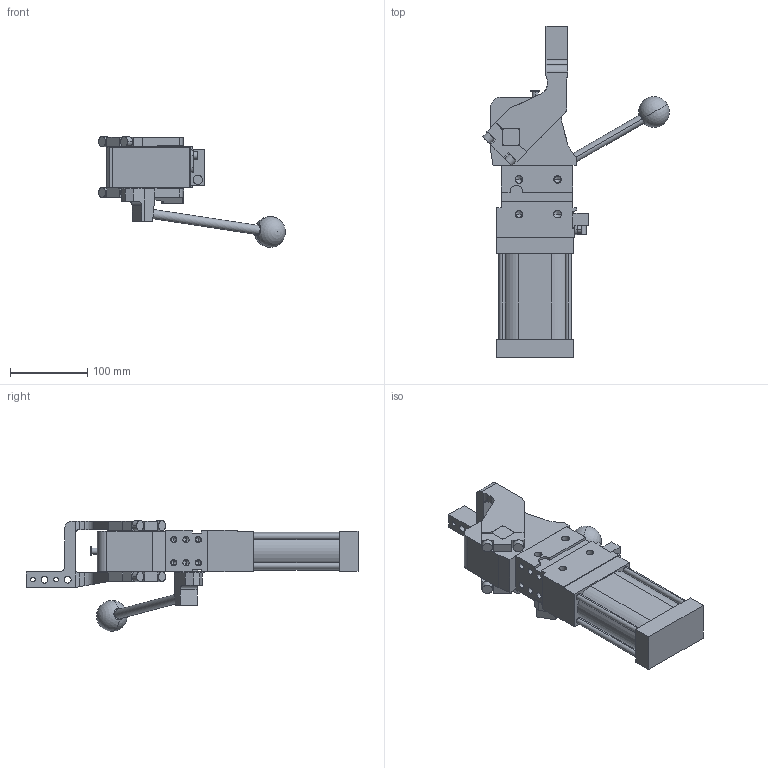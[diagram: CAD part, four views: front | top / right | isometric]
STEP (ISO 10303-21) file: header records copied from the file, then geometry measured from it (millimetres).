
FILE_DESCRIPTION (( 'STEP AP214' ), '1' );
FILE_NAME ('cplm63lbh3dsi1g_75.STEP', '2023-01-26T14:56:09', ( '' ), ( '' ), 'SwSTEP 2.0', 'SolidWorks 2022', '' );
FILE_SCHEMA (( 'AUTOMOTIVE_DESIGN' ));
Length unit declared in the file: millimetre
Products named in the file (5): meccanica_cplm_63; blocchetto_VEP_0; comando_manuale_cplm_63; cplm63lbh3dsi1g_75; leva_dx_offset_45_cpl63
Assembly tree (4 placements, depth 2):
  cplm63lbh3dsi1g_75
    meccanica_cplm_63
    blocchetto_VEP_0
    leva_dx_offset_45_cpl63
    comando_manuale_cplm_63
Bounding box: 242.06 x 430.5 x 143.5 mm (x, y, z)
Volume: 1887764.5 mm3; surface area: 211438.7 mm2
Topology: 4 solids, 4 shells, 432 faces, 1134 edges, 703 vertices
Faces by surface type: plane 219, cylinder 161, cone 50, sphere 2
Entity records: 14577 total; most frequent: CARTESIAN_POINT 2322, DIRECTION 2302, ORIENTED_EDGE 2166, EDGE_CURVE 1083, AXIS2_PLACEMENT_3D 794, LINE 714, VECTOR 714, VERTEX_POINT 700
